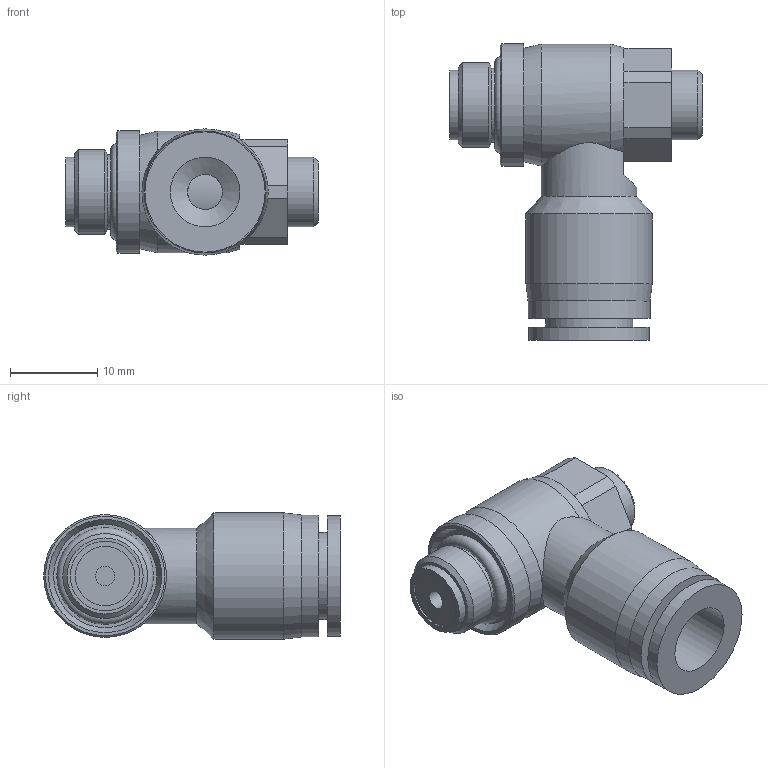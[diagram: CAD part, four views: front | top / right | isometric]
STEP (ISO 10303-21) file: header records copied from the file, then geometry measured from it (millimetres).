
FILE_DESCRIPTION(/* description */ (''),/* implementation_level */ '2;1');
FILE_NAME(/* name */ 'S:\_Tecnico\ArchivioUT\DISEGNI\DISEGNI 3D per ingombri\DP\DP 79\DP79C1808.stp',/* time_stamp */ '2018-12-17T15:59:14+01:00',/* author */ ('UfficioTecnico'),/* organization */ (''),/* preprocessor_version */ 'ST-DEVELOPER v16.1',/* originating_system */ 'Autodesk Inventor 2016',/* authorisation */ '');
FILE_SCHEMA (('AUTOMOTIVE_DESIGN { 1 0 10303 214 3 1 1 }'));
Length unit declared in the file: millimetre
Products named in the file (1): DP79C1808
Bounding box: 29 x 34.05 x 14.5 mm (x, y, z)
Volume: 5235.6 mm3; surface area: 3234.3 mm2
Topology: 1 solids, 1 shells, 61 faces, 129 edges, 82 vertices
Faces by surface type: plane 31, cylinder 18, cone 11, torus 1
Full cylindrical faces by diameter (mm): 2.2 x1, 4 x1, 5 x1, 6.8 x1, 8 x3, 8.5 x2, 9.728 x1, 10 x1, 11 x1, 13.8 x1, 14 x2, 14.1 x1, 14.5 x1
Entity records: 1559 total; most frequent: CARTESIAN_POINT 312, DIRECTION 259, ORIENTED_EDGE 192, AXIS2_PLACEMENT_3D 106, EDGE_LOOP 100, EDGE_CURVE 96, VERTEX_POINT 76, FACE_OUTER_BOUND 61
